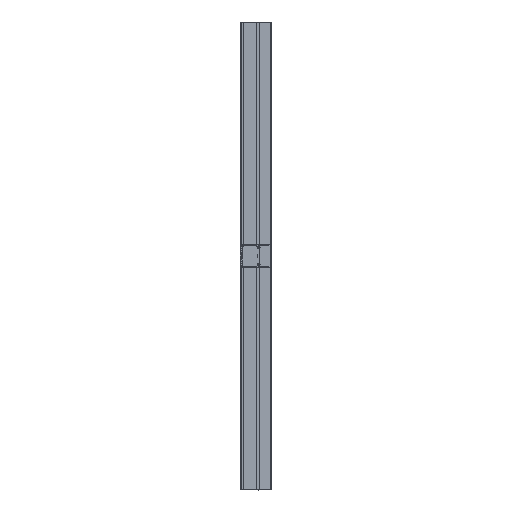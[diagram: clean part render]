
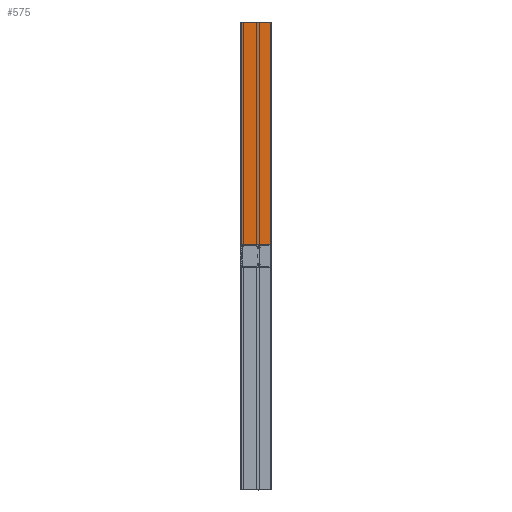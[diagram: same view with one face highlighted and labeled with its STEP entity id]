
A CAD part, left-side view. The second image highlights one B-rep face of the part: STEP entity #575.
In plain terms, the highlighted planar face has unit normal (-1, 0, 0).
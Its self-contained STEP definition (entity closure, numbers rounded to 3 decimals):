
#575=ADVANCED_FACE('',(#1741),#1743,.T.);
#1741=FACE_BOUND('',#1742,.T.);
#1742=EDGE_LOOP('',(#5674,#5675,#5676,#5677));
#1743=PLANE('',#1744);
#1744=AXIS2_PLACEMENT_3D('',#1745,#1746,#1747);
#1745=CARTESIAN_POINT('',(-25.,4.,-255.5));
#1746=DIRECTION('',(-1.,0.,0.));
#1747=DIRECTION('',(0.,-1.,0.));
#5674=ORIENTED_EDGE('',*,*,#7816,.T.);
#5675=ORIENTED_EDGE('',*,*,#8201,.T.);
#5676=ORIENTED_EDGE('',*,*,#8073,.F.);
#5677=ORIENTED_EDGE('',*,*,#8202,.F.);
#7816=EDGE_CURVE('',#9279,#9277,#9280,.F.);
#8073=EDGE_CURVE('',#9785,#9516,#9787,.T.);
#8201=EDGE_CURVE('',#9277,#9516,#9968,.T.);
#8202=EDGE_CURVE('',#9279,#9785,#9969,.T.);
#9277=VERTEX_POINT('',#11798);
#9279=VERTEX_POINT('',#11803);
#9280=LINE('',#11804,#11805);
#9516=VERTEX_POINT('',#12356);
#9785=VERTEX_POINT('',#12976);
#9787=LINE('',#12981,#12982);
#9968=LINE('',#13465,#13466);
#9969=LINE('',#13468,#13469);
#11798=CARTESIAN_POINT('',(-25.,-63.75,-230.5));
#11803=CARTESIAN_POINT('',(-25.,4.,-230.5));
#11804=CARTESIAN_POINT('',(-25.,-63.75,-230.5));
#11805=VECTOR('',#11806,1.);
#11806=DIRECTION('',(0.,1.,0.));
#12356=CARTESIAN_POINT('',(-25.,-63.75,255.5));
#12976=CARTESIAN_POINT('',(-25.,4.,255.5));
#12981=CARTESIAN_POINT('',(-25.,4.,255.5));
#12982=VECTOR('',#12983,1.);
#12983=DIRECTION('',(0.,-1.,0.));
#13465=CARTESIAN_POINT('',(-25.,-63.75,-230.5));
#13466=VECTOR('',#13467,1.);
#13467=DIRECTION('',(0.,0.,1.));
#13468=CARTESIAN_POINT('',(-25.,4.,-230.5));
#13469=VECTOR('',#13470,1.);
#13470=DIRECTION('',(0.,0.,1.));
